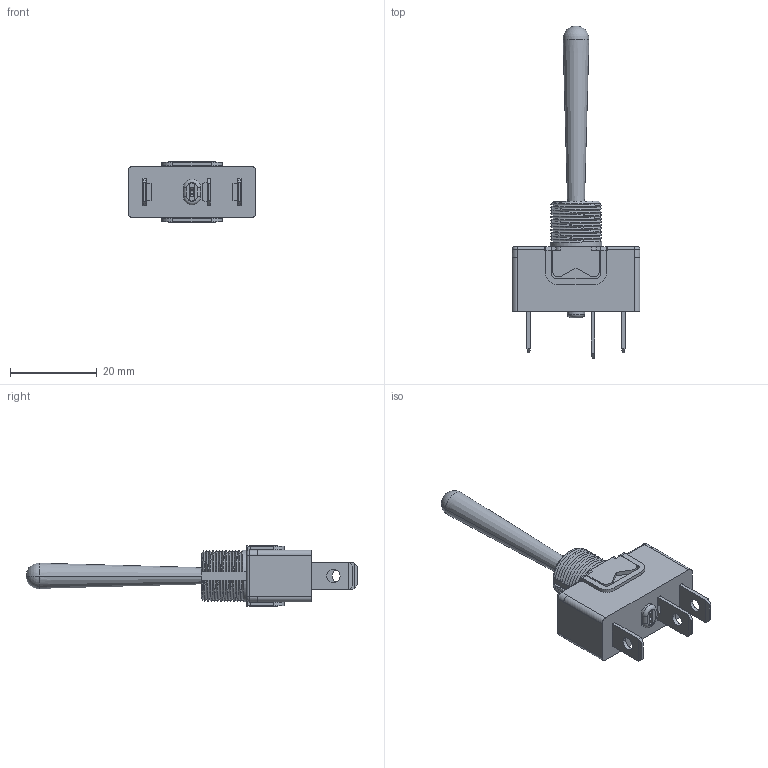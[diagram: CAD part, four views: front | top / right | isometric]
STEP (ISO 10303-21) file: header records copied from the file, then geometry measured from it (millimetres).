
FILE_DESCRIPTION((''),'2;1');
FILE_NAME('637H2-5_SW0001','2010-01-05T',('jlgachon'),(''),'PRO/ENGINEER BY PARAMETRIC TECHNOLOGY CORPORATION, 2008400','PRO/ENGINEER BY PARAMETRIC TECHNOLOGY CORPORATION, 2008400','');
FILE_SCHEMA(('CONFIG_CONTROL_DESIGN'));
Length unit declared in the file: millimetre
Products named in the file (1): 637H2-5_SW0001
Bounding box: 29.5 x 76.7 x 14 mm (x, y, z)
Volume: 5512.4 mm3; surface area: 6910 mm2
Topology: 2 solids, 2 shells, 574 faces, 1627 edges, 1039 vertices
Faces by surface type: plane 364, cylinder 152, bspline 34, cone 10, torus 8, sphere 6
Entity records: 24167 total; most frequent: CARTESIAN_POINT 9358, ORIENTED_EDGE 3250, DIRECTION 2869, EDGE_CURVE 1625, VECTOR 1125, LINE 1125, VERTEX_POINT 1039, AXIS2_PLACEMENT_3D 872
